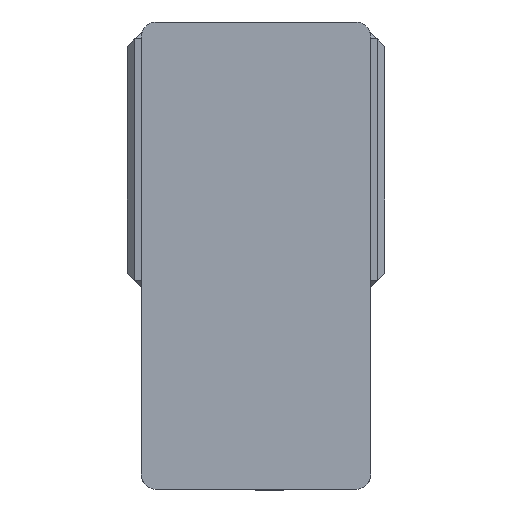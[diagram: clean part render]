
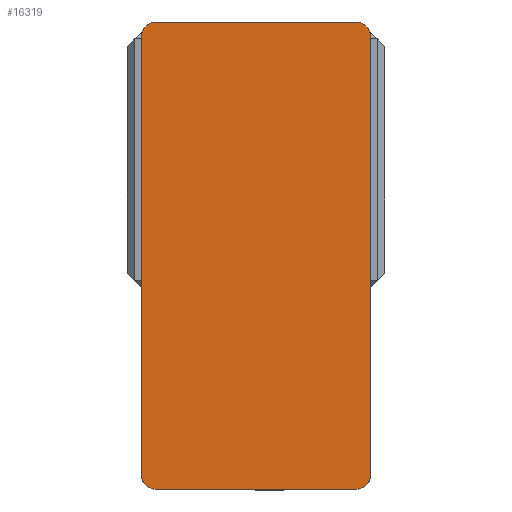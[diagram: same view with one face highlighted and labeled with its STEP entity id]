
A CAD part, left-side view. The second image highlights one B-rep face of the part: STEP entity #16319.
In plain terms, the highlighted planar face has unit normal (-1, 0, 0) as drawn and (0, 0, 1) by its records, which use the part's own axes.
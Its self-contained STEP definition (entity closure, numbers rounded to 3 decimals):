
#158 = DIRECTION ( 'NONE',  ( 0., 0., 1. ) ) ;
#236 = EDGE_CURVE ( 'NONE', #22832, #5278, #10045, .T. ) ;
#261 = ORIENTED_EDGE ( 'NONE', *, *, #12733, .T. ) ;
#636 = CARTESIAN_POINT ( 'NONE',  ( 75., 152.5, 105. ) ) ;
#837 = CARTESIAN_POINT ( 'NONE',  ( -65., 142.5, 105. ) ) ;
#966 = EDGE_LOOP ( 'NONE', ( #261, #16013, #14212, #12236, #13317, #21870, #14025, #3472 ) ) ;
#982 = VERTEX_POINT ( 'NONE', #9836 ) ;
#1064 = CARTESIAN_POINT ( 'NONE',  ( -75., -142.5, 105. ) ) ;
#1898 = EDGE_CURVE ( 'NONE', #5278, #6262, #3050, .T. ) ;
#1921 = VECTOR ( 'NONE', #16990, 1000. ) ;
#2635 = DIRECTION ( 'NONE',  ( 1., 0., 0. ) ) ;
#2981 = DIRECTION ( 'NONE',  ( 0., 0., 1. ) ) ;
#2998 = CARTESIAN_POINT ( 'NONE',  ( -75., 142.5, 105. ) ) ;
#3050 = LINE ( 'NONE', #636, #11924 ) ;
#3472 = ORIENTED_EDGE ( 'NONE', *, *, #6523, .T. ) ;
#3473 = AXIS2_PLACEMENT_3D ( 'NONE', #15411, #4879, #17168 ) ;
#3714 = EDGE_CURVE ( 'NONE', #6262, #16964, #7035, .T. ) ;
#4879 = DIRECTION ( 'NONE',  ( 0., 0., 1. ) ) ;
#5212 = CARTESIAN_POINT ( 'NONE',  ( 75., -142.5, 105. ) ) ;
#5278 = VERTEX_POINT ( 'NONE', #5212 ) ;
#5871 = CARTESIAN_POINT ( 'NONE',  ( 65., 152.5, 105. ) ) ;
#5923 = CARTESIAN_POINT ( 'NONE',  ( -75., 152.5, 105. ) ) ;
#6262 = VERTEX_POINT ( 'NONE', #7832 ) ;
#6523 = EDGE_CURVE ( 'NONE', #10631, #982, #13837, .T. ) ;
#6530 = LINE ( 'NONE', #8455, #7091 ) ;
#6801 = AXIS2_PLACEMENT_3D ( 'NONE', #837, #13259, #2635 ) ;
#7035 = CIRCLE ( 'NONE', #8957, 10. ) ;
#7091 = VECTOR ( 'NONE', #18919, 1000. ) ;
#7691 = DIRECTION ( 'NONE',  ( -1., 0., 0. ) ) ;
#7832 = CARTESIAN_POINT ( 'NONE',  ( 75., 142.5, 105. ) ) ;
#8455 = CARTESIAN_POINT ( 'NONE',  ( -75., 152.5, 105. ) ) ;
#8818 = DIRECTION ( 'NONE',  ( 0., 0., 1. ) ) ;
#8957 = AXIS2_PLACEMENT_3D ( 'NONE', #10821, #158, #12603 ) ;
#9836 = CARTESIAN_POINT ( 'NONE',  ( -65., -152.5, 105. ) ) ;
#10045 = CIRCLE ( 'NONE', #12210, 10. ) ;
#10402 = VERTEX_POINT ( 'NONE', #20102 ) ;
#10631 = VERTEX_POINT ( 'NONE', #1064 ) ;
#10821 = CARTESIAN_POINT ( 'NONE',  ( 65., 142.5, 105. ) ) ;
#11924 = VECTOR ( 'NONE', #16559, 1000. ) ;
#12131 = DIRECTION ( 'NONE',  ( 1., 0., 0. ) ) ;
#12210 = AXIS2_PLACEMENT_3D ( 'NONE', #15928, #2981, #12131 ) ;
#12236 = ORIENTED_EDGE ( 'NONE', *, *, #3714, .T. ) ;
#12373 = PLANE ( 'NONE',  #21917 ) ;
#12603 = DIRECTION ( 'NONE',  ( 1., 0., 0. ) ) ;
#12733 = EDGE_CURVE ( 'NONE', #982, #22832, #17654, .T. ) ;
#13123 = VECTOR ( 'NONE', #7691, 1000. ) ;
#13259 = DIRECTION ( 'NONE',  ( 0., 0., 1. ) ) ;
#13317 = ORIENTED_EDGE ( 'NONE', *, *, #20035, .T. ) ;
#13837 = CIRCLE ( 'NONE', #3473, 10. ) ;
#14025 = ORIENTED_EDGE ( 'NONE', *, *, #19028, .T. ) ;
#14212 = ORIENTED_EDGE ( 'NONE', *, *, #1898, .T. ) ;
#15250 = CARTESIAN_POINT ( 'NONE',  ( -75., -152.5, 105. ) ) ;
#15411 = CARTESIAN_POINT ( 'NONE',  ( -65., -142.5, 105. ) ) ;
#15633 = FACE_OUTER_BOUND ( 'NONE', #966, .T. ) ;
#15874 = DIRECTION ( 'NONE',  ( 1., 0., 0. ) ) ;
#15928 = CARTESIAN_POINT ( 'NONE',  ( 65., -142.5, 105. ) ) ;
#16013 = ORIENTED_EDGE ( 'NONE', *, *, #236, .T. ) ;
#16319 = ADVANCED_FACE ( 'NONE', ( #15633 ), #12373, .T. ) ;
#16556 = CARTESIAN_POINT ( 'NONE',  ( 65., -152.5, 105. ) ) ;
#16559 = DIRECTION ( 'NONE',  ( 0., 1., 0. ) ) ;
#16964 = VERTEX_POINT ( 'NONE', #5871 ) ;
#16990 = DIRECTION ( 'NONE',  ( 1., 0., 0. ) ) ;
#17168 = DIRECTION ( 'NONE',  ( 1., 0., 0. ) ) ;
#17220 = CIRCLE ( 'NONE', #6801, 10. ) ;
#17654 = LINE ( 'NONE', #15250, #1921 ) ;
#17822 = EDGE_CURVE ( 'NONE', #10402, #18949, #17220, .T. ) ;
#18296 = LINE ( 'NONE', #5923, #13123 ) ;
#18919 = DIRECTION ( 'NONE',  ( 0., -1., 0. ) ) ;
#18949 = VERTEX_POINT ( 'NONE', #2998 ) ;
#19028 = EDGE_CURVE ( 'NONE', #18949, #10631, #6530, .T. ) ;
#20035 = EDGE_CURVE ( 'NONE', #16964, #10402, #18296, .T. ) ;
#20102 = CARTESIAN_POINT ( 'NONE',  ( -65., 152.5, 105. ) ) ;
#21085 = CARTESIAN_POINT ( 'NONE',  ( 0., 0., 105. ) ) ;
#21870 = ORIENTED_EDGE ( 'NONE', *, *, #17822, .T. ) ;
#21917 = AXIS2_PLACEMENT_3D ( 'NONE', #21085, #8818, #15874 ) ;
#22832 = VERTEX_POINT ( 'NONE', #16556 ) ;
